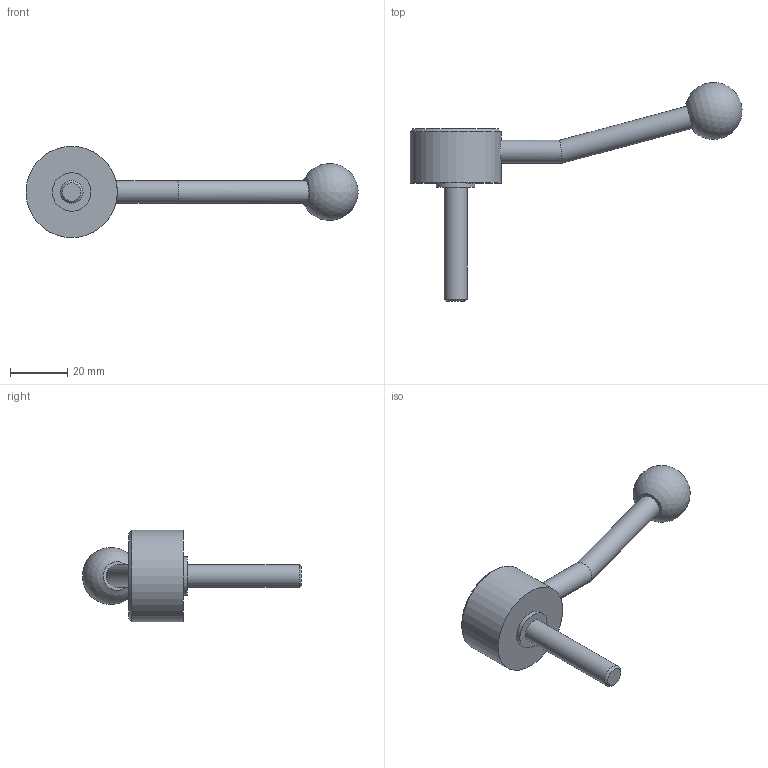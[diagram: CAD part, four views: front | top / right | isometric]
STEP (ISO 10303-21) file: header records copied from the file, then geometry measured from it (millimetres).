
FILE_DESCRIPTION( ( 'STEP AP203' ), '1' );
FILE_NAME( 'C:/Temp/Ganter_Step_05_03_2020/data/2_1/gn_125/gn_125_ms/gn_125_ms_e/Flat Adjustable Lever GN 125-32-M8-40-E.stp', '2020-03-05T11:00:54', ( 'License CC BY-ND 4.0' ), ( 'CADENAS' ), ' ', 'PARTsolutions', ' ' );
FILE_SCHEMA( ( 'CONFIG_CONTROL_DESIGN' ) );
Length unit declared in the file: millimetre
Products named in the file (1): _Flat Adjustable Lever GN 125-32-M8-40-E
Bounding box: 116.32 x 76.72 x 32 mm (x, y, z)
Volume: 24891.5 mm3; surface area: 7387.4 mm2
Topology: 1 solids, 1 shells, 15 faces, 26 edges, 17 vertices
Faces by surface type: cylinder 6, plane 6, cone 2, sphere 1
Full cylindrical faces by diameter (mm): 8 x3, 13.5 x1, 22 x1, 32 x1
Entity records: 404 total; most frequent: CARTESIAN_POINT 110, DIRECTION 58, AXIS2_PLACEMENT_3D 29, EDGE_LOOP 28, ORIENTED_EDGE 28, FACE_OUTER_BOUND 21, ADVANCED_FACE 15, VERTEX_POINT 15
